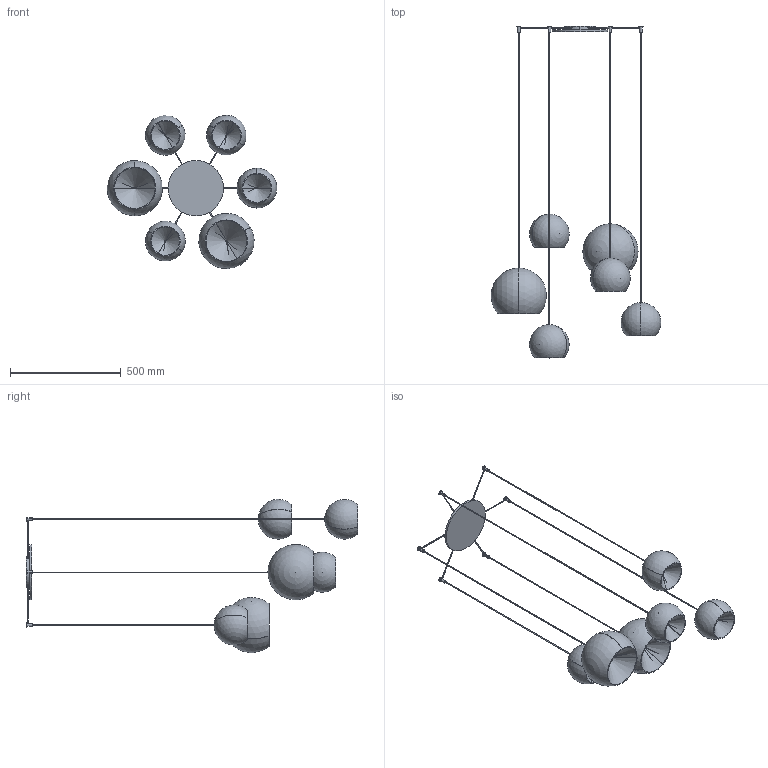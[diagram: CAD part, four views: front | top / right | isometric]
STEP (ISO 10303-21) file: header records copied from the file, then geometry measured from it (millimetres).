
FILE_DESCRIPTION (( 'STEP AP203' ), '1' );
FILE_NAME ('CRM06-00-CHERRY MIX_6 SOSPENSIONE.STEP', '2024-07-31T09:38:59', ( '' ), ( '' ), 'SwSTEP 2.0', 'SolidWorks 2022', '' );
FILE_SCHEMA (( 'CONFIG_CONTROL_DESIGN' ));
Length unit declared in the file: millimetre
Products named in the file (8): CRM06-00-CHERRY MIX_6 SOSPENSIONE; CHERRY_Lampada singola Diam.180_H=2000; CHERRY_Lampada singola Diam.180_H=1800; CHERRY_Lampada singola Diam.180_H=1500; CHERRY MIX_Rosone diam.250_Cherry 6<A macchina>; CHERRY MIX_Lampada singola Diam.250_H=1700; CHERRY_Lampada singola Diam.180_H=1600; CHERRY MIX_Lampada singola Diam.250_H=1900
Assembly tree (7 placements, depth 2):
  CRM06-00-CHERRY MIX_6 SOSPENSIONE
    CHERRY MIX_Rosone diam.250_Cherry 6<A macchina>
    CHERRY_Lampada singola Diam.180_H=1800
    CHERRY_Lampada singola Diam.180_H=1500
    CHERRY MIX_Lampada singola Diam.250_H=1700
    CHERRY_Lampada singola Diam.180_H=2000
    CHERRY MIX_Lampada singola Diam.250_H=1900
    CHERRY_Lampada singola Diam.180_H=1600
Bounding box: 767 x 1500 x 692.69 mm (x, y, z)
Volume: 2283585.1 mm3; surface area: 1864173.2 mm2
Topology: 31 solids, 31 shells, 228 faces, 542 edges, 341 vertices
Faces by surface type: cylinder 109, plane 71, sphere 24, cone 24
Entity records: 7196 total; most frequent: CARTESIAN_POINT 1490, DIRECTION 1131, ORIENTED_EDGE 916, AXIS2_PLACEMENT_3D 502, EDGE_CURVE 458, VERTEX_POINT 305, CIRCLE 264, EDGE_LOOP 253
